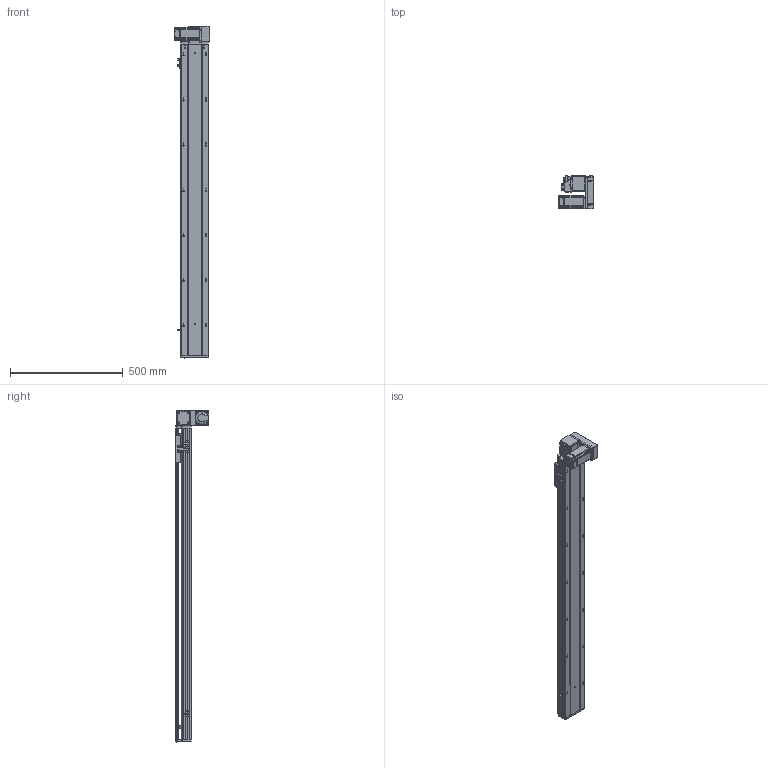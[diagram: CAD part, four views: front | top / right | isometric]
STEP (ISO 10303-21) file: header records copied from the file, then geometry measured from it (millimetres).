
FILE_DESCRIPTION (( 'STEP AP203' ), '1' );
FILE_NAME ('RY120-T-300-DR.SLDASM_1150.step', '2021-03-01T03:35:59', ( '盈信电脑' ), ( '东莞市道滘镇水果街19号' ), 'SwSTEP 2.0', 'SolidWorks 2012', '' );
FILE_SCHEMA (( 'CONFIG_CONTROL_DESIGN' ));
Length unit declared in the file: millimetre
Products named in the file (17): RY120-T-300-DR.SLDASM_1150; RY120-T主同步轮轴承压盖; 15; RY120-T蹟翐M4; RY120-T萇儂欶; RY120-T萇儂假蚾啣; RY120-T翋肮祭謫裔啣; RY120-T翋肮祭盓傅釱; RY120-T肮祭湍揤踡輸2; 滅袉蝶18-10; 覜茼ん672; RY120-T肮祭湍揤踡輸1; RY120外置感应片(140共用）; RY120肮祭湍臏賑輸; RY120-T-300-DR倰第奻裔啣_1150; RY120綴裔啣; RY120-T-300-DR倰第菁釱_1150
Assembly tree (22 placements, depth 2):
  RY120-T-300-DR.SLDASM_1150
    RY120-T-300-DR倰第菁釱_1150
    RY120-T-300-DR倰第奻裔啣_1150
    RY120肮祭湍臏賑輸
    RY120綴裔啣
    覜茼ん672  x3
    RY120外置感应片(140共用）
    RY120-T肮祭湍揤踡輸1
    RY120-T肮祭湍揤踡輸2
    RY120-T翋肮祭盓傅釱
    滅袉蝶18-10  x2
    RY120-T翋肮祭謫裔啣
    15
    RY120-T萇儂假蚾啣
    RY120-T蹟翐M4  x4
    RY120-T萇儂欶
    RY120-T主同步轮轴承压盖
Bounding box: 155.5 x 150 x 1471 mm (x, y, z)
Volume: 3946758.2 mm3; surface area: 1480474.9 mm2
Topology: 23 solids, 23 shells, 2836 faces, 7720 edges, 4940 vertices
Faces by surface type: plane 1412, cylinder 1074, cone 261, bspline 89
Entity records: 89921 total; most frequent: CARTESIAN_POINT 22730, ORIENTED_EDGE 13840, DIRECTION 13142, EDGE_CURVE 6920, VERTEX_POINT 4527, AXIS2_PLACEMENT_3D 4407, LINE 4328, VECTOR 4328
